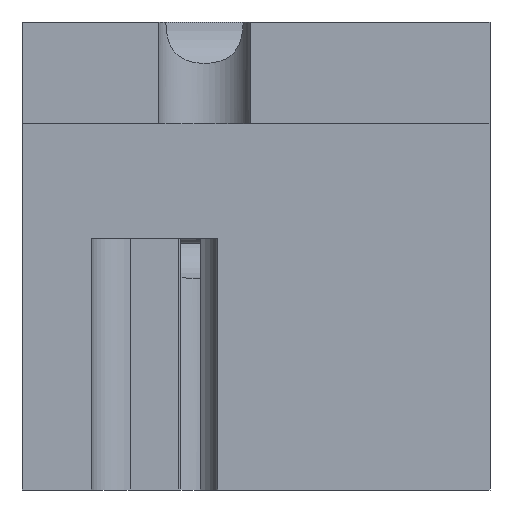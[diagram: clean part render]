
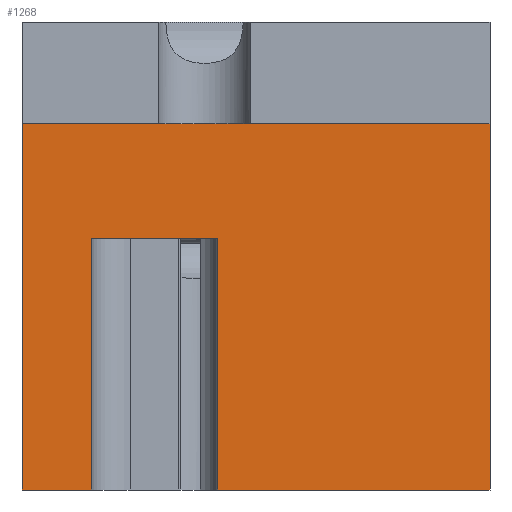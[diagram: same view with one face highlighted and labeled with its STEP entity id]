
A CAD part, front view. The second image highlights one B-rep face of the part: STEP entity #1268.
In plain terms, the highlighted planar face has unit normal (0, -1, 0).
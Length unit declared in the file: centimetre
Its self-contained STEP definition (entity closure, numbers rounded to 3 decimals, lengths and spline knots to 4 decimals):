
#71 = CARTESIAN_POINT ( 'NONE',  ( 0., 0., 0. ) ) ;
#99 = VECTOR ( 'NONE', #1981, 100. ) ;
#110 = EDGE_CURVE ( 'NONE', #2150, #1717, #1291, .T. ) ;
#142 = DIRECTION ( 'NONE',  ( 0., 0., -1. ) ) ;
#190 = CARTESIAN_POINT ( 'NONE',  ( 0., 0., 782.6536 ) ) ;
#227 = DIRECTION ( 'NONE',  ( 1., 0., 0. ) ) ;
#259 = CARTESIAN_POINT ( 'NONE',  ( 0., 0., 0. ) ) ;
#324 = VECTOR ( 'NONE', #2175, 100. ) ;
#379 = VERTEX_POINT ( 'NONE', #1878 ) ;
#411 = DIRECTION ( 'NONE',  ( 0., 0., -1. ) ) ;
#481 = ORIENTED_EDGE ( 'NONE', *, *, #1580, .F. ) ;
#537 = VERTEX_POINT ( 'NONE', #1614 ) ;
#613 = VECTOR ( 'NONE', #1599, 100. ) ;
#620 = CARTESIAN_POINT ( 'NONE',  ( 418.2924, 0., 537.0986 ) ) ;
#660 = CARTESIAN_POINT ( 'NONE',  ( 0., 0., 1000. ) ) ;
#667 = EDGE_CURVE ( 'NONE', #2184, #1901, #1716, .T. ) ;
#719 = ORIENTED_EDGE ( 'NONE', *, *, #1358, .T. ) ;
#765 = CARTESIAN_POINT ( 'NONE',  ( 418.2924, 0., 537.0986 ) ) ;
#819 = EDGE_CURVE ( 'NONE', #379, #2184, #1432, .T. ) ;
#835 = VECTOR ( 'NONE', #1562, 100. ) ;
#871 = FACE_OUTER_BOUND ( 'NONE', #1440, .T. ) ;
#881 = LINE ( 'NONE', #1944, #835 ) ;
#915 = CARTESIAN_POINT ( 'NONE',  ( 148.4093, 0., 537.0986 ) ) ;
#916 = ORIENTED_EDGE ( 'NONE', *, *, #1918, .T. ) ;
#1177 = ORIENTED_EDGE ( 'NONE', *, *, #667, .T. ) ;
#1188 = PLANE ( 'NONE',  #2262 ) ;
#1214 = DIRECTION ( 'NONE',  ( 0., 0., 1. ) ) ;
#1255 = ORIENTED_EDGE ( 'NONE', *, *, #819, .T. ) ;
#1268 = ADVANCED_FACE ( 'NONE', ( #871 ), #1188, .F. ) ;
#1276 = LINE ( 'NONE', #765, #1517 ) ;
#1291 = LINE ( 'NONE', #915, #99 ) ;
#1298 = ORIENTED_EDGE ( 'NONE', *, *, #1377, .T. ) ;
#1339 = EDGE_CURVE ( 'NONE', #1709, #537, #1663, .T. ) ;
#1358 = EDGE_CURVE ( 'NONE', #1471, #1709, #1276, .T. ) ;
#1367 = CARTESIAN_POINT ( 'NONE',  ( 1000., 0., 1000. ) ) ;
#1377 = EDGE_CURVE ( 'NONE', #1901, #2150, #1828, .T. ) ;
#1397 = VECTOR ( 'NONE', #2078, 100. ) ;
#1432 = LINE ( 'NONE', #2155, #613 ) ;
#1440 = EDGE_LOOP ( 'NONE', ( #481, #1255, #1177, #1298, #1738, #916, #719, #2243 ) ) ;
#1471 = VERTEX_POINT ( 'NONE', #620 ) ;
#1495 = CARTESIAN_POINT ( 'NONE',  ( 148.4093, 0., 0. ) ) ;
#1517 = VECTOR ( 'NONE', #411, 100. ) ;
#1562 = DIRECTION ( 'NONE',  ( 1., 0., 0. ) ) ;
#1580 = EDGE_CURVE ( 'NONE', #379, #537, #1725, .T. ) ;
#1594 = DIRECTION ( 'NONE',  ( 0., 1., 0. ) ) ;
#1599 = DIRECTION ( 'NONE',  ( -1., 0., 0. ) ) ;
#1614 = CARTESIAN_POINT ( 'NONE',  ( 1000., 0., 0. ) ) ;
#1647 = VECTOR ( 'NONE', #142, 100. ) ;
#1663 = LINE ( 'NONE', #71, #324 ) ;
#1709 = VERTEX_POINT ( 'NONE', #2109 ) ;
#1716 = LINE ( 'NONE', #660, #1647 ) ;
#1717 = VERTEX_POINT ( 'NONE', #1772 ) ;
#1725 = LINE ( 'NONE', #1367, #1397 ) ;
#1738 = ORIENTED_EDGE ( 'NONE', *, *, #110, .T. ) ;
#1772 = CARTESIAN_POINT ( 'NONE',  ( 148.4093, 0., 537.0986 ) ) ;
#1828 = LINE ( 'NONE', #259, #2135 ) ;
#1878 = CARTESIAN_POINT ( 'NONE',  ( 1000., 0., 782.6536 ) ) ;
#1901 = VERTEX_POINT ( 'NONE', #2105 ) ;
#1907 = CARTESIAN_POINT ( 'NONE',  ( 0., 0., 1000. ) ) ;
#1918 = EDGE_CURVE ( 'NONE', #1717, #1471, #881, .T. ) ;
#1944 = CARTESIAN_POINT ( 'NONE',  ( 0., 0., 537.0986 ) ) ;
#1981 = DIRECTION ( 'NONE',  ( 0., 0., 1. ) ) ;
#2078 = DIRECTION ( 'NONE',  ( 0., 0., -1. ) ) ;
#2105 = CARTESIAN_POINT ( 'NONE',  ( 0., 0., 0. ) ) ;
#2109 = CARTESIAN_POINT ( 'NONE',  ( 418.2924, 0., 0. ) ) ;
#2135 = VECTOR ( 'NONE', #227, 100. ) ;
#2150 = VERTEX_POINT ( 'NONE', #1495 ) ;
#2155 = CARTESIAN_POINT ( 'NONE',  ( 1000., 0., 782.6536 ) ) ;
#2175 = DIRECTION ( 'NONE',  ( 1., 0., 0. ) ) ;
#2184 = VERTEX_POINT ( 'NONE', #190 ) ;
#2243 = ORIENTED_EDGE ( 'NONE', *, *, #1339, .T. ) ;
#2262 = AXIS2_PLACEMENT_3D ( 'NONE', #1907, #1594, #1214 ) ;
